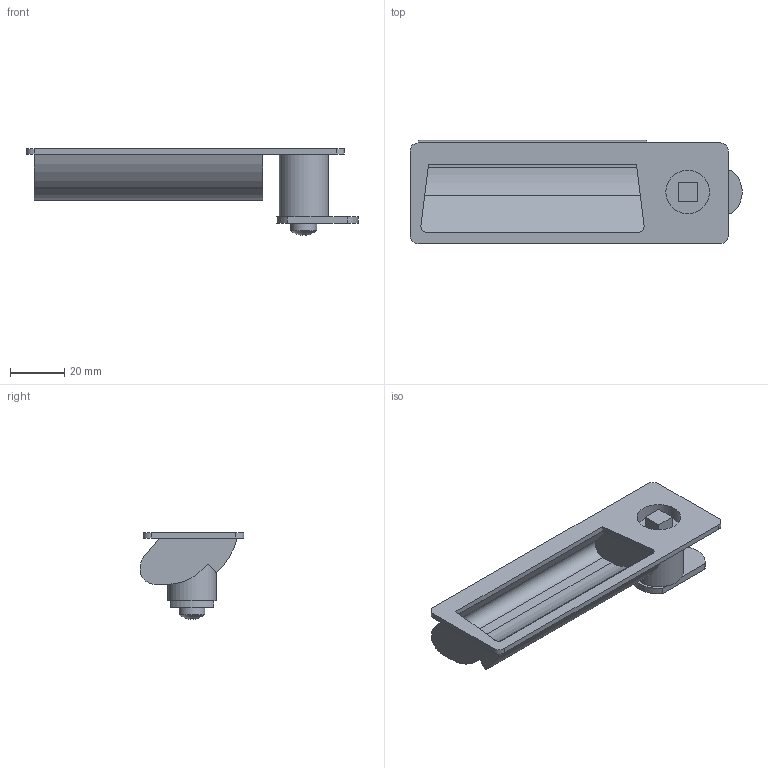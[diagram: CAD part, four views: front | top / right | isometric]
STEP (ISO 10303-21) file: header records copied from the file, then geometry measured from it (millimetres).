
FILE_DESCRIPTION( ( 'STEP AP203' ), '1' );
FILE_NAME( 'C:/Temp/Ganter_Step_05_03_2020/data/3_3/gn731_5/gn731_5_2/Latche with gripping tray GN 731.5-VK-0-20-2-SG (0-23).stp', '2020-03-12T11:49:32', ( 'License CC BY-ND 4.0' ), ( 'CADENAS' ), ' ', 'PARTsolutions', ' ' );
FILE_SCHEMA( ( 'CONFIG_CONTROL_DESIGN' ) );
Length unit declared in the file: millimetre
Products named in the file (3): Latche with gripping tray GN 731.5-VK-0-20-2-SG (0-23); _Latche with gripping tray GN 731.5-VK-0-20-2-SG (0)_1; _Latche with gripping tray GN 731.5-VK-0-20-2-SG (0-23)_2
Assembly tree (2 placements, depth 2):
  Latche with gripping tray GN 731.5-VK-0-20-2-SG (0-23)
    _Latche with gripping tray GN 731.5-VK-0-20-2-SG (0)_1
    _Latche with gripping tray GN 731.5-VK-0-20-2-SG (0-23)_2
Bounding box: 121.96 x 38 x 31.88 mm (x, y, z)
Volume: 23363.7 mm3; surface area: 19547.1 mm2
Topology: 2 solids, 2 shells, 85 faces, 215 edges, 140 vertices
Faces by surface type: plane 64, cylinder 20, sphere 1
Full cylindrical faces by diameter (mm): 9.5 x1, 16 x1, 18 x1
Entity records: 2615 total; most frequent: DIRECTION 445, CARTESIAN_POINT 433, ORIENTED_EDGE 416, EDGE_CURVE 208, AXIS2_PLACEMENT_3D 149, LINE 147, VECTOR 147, VERTEX_POINT 137
